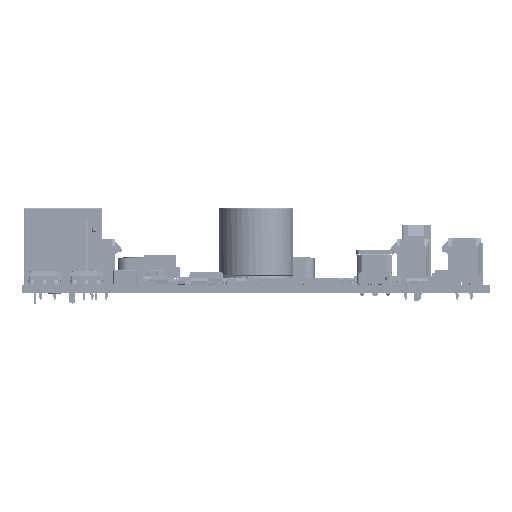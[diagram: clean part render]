
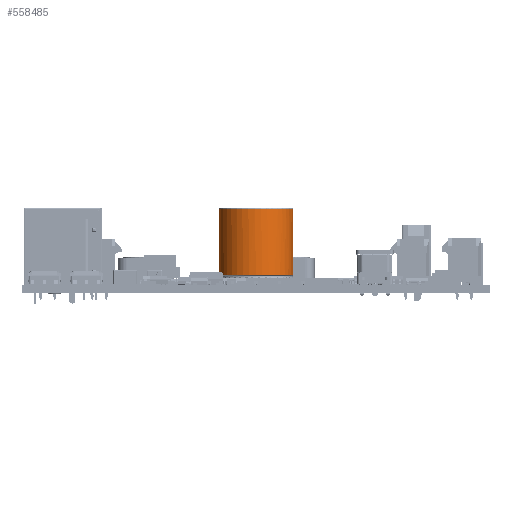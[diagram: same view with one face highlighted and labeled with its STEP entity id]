
A CAD part, left-side view. The second image highlights one B-rep face of the part: STEP entity #558485.
In plain terms, the highlighted cylindrical face has radius 8 mm (diameter 16 mm), a full revolution.
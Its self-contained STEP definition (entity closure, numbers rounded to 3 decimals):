
#30582=CIRCLE('',#598447,8.);
#30583=CIRCLE('',#598448,8.);
#30590=CIRCLE('',#598467,8.);
#30591=CIRCLE('',#598468,8.);
#30592=CIRCLE('',#598469,8.);
#42861=CYLINDRICAL_SURFACE('',#598466,8.);
#49056=FACE_OUTER_BOUND('',#80023,.T.);
#80023=EDGE_LOOP('',(#376846,#376847,#376848,#376849,#376850,#376851,#376852));
#111360=LINE('',#800673,#176104);
#176104=VECTOR('',#645165,8.);
#241570=VERTEX_POINT('',#800623);
#241571=VERTEX_POINT('',#800625);
#241580=VERTEX_POINT('',#800668);
#241581=VERTEX_POINT('',#800669);
#241582=VERTEX_POINT('',#800671);
#294209=EDGE_CURVE('',#241570,#241571,#30582,.T.);
#294210=EDGE_CURVE('',#241571,#241570,#30583,.T.);
#294231=EDGE_CURVE('',#241580,#241581,#30590,.T.);
#294232=EDGE_CURVE('',#241581,#241582,#30591,.T.);
#294233=EDGE_CURVE('',#241582,#241571,#111360,.T.);
#294234=EDGE_CURVE('',#241582,#241580,#30592,.T.);
#376846=ORIENTED_EDGE('',*,*,#294231,.T.);
#376847=ORIENTED_EDGE('',*,*,#294232,.T.);
#376848=ORIENTED_EDGE('',*,*,#294233,.T.);
#376849=ORIENTED_EDGE('',*,*,#294209,.F.);
#376850=ORIENTED_EDGE('',*,*,#294210,.F.);
#376851=ORIENTED_EDGE('',*,*,#294233,.F.);
#376852=ORIENTED_EDGE('',*,*,#294234,.T.);
#558485=ADVANCED_FACE('',(#49056),#42861,.T.);
#598447=AXIS2_PLACEMENT_3D('',#800626,#645107,#645108);
#598448=AXIS2_PLACEMENT_3D('',#800627,#645109,#645110);
#598466=AXIS2_PLACEMENT_3D('',#800667,#645159,#645160);
#598467=AXIS2_PLACEMENT_3D('',#800670,#645161,#645162);
#598468=AXIS2_PLACEMENT_3D('',#800672,#645163,#645164);
#598469=AXIS2_PLACEMENT_3D('',#800674,#645166,#645167);
#645107=DIRECTION('center_axis',(0.,0.,-1.));
#645108=DIRECTION('ref_axis',(0.809,0.588,0.));
#645109=DIRECTION('center_axis',(0.,0.,-1.));
#645110=DIRECTION('ref_axis',(0.809,0.588,0.));
#645159=DIRECTION('center_axis',(0.,0.,1.));
#645160=DIRECTION('ref_axis',(1.,0.,0.));
#645161=DIRECTION('center_axis',(0.,0.,-1.));
#645162=DIRECTION('ref_axis',(1.,0.,0.));
#645163=DIRECTION('center_axis',(0.,0.,-1.));
#645164=DIRECTION('ref_axis',(1.,0.,0.));
#645165=DIRECTION('',(0.,0.,-1.));
#645166=DIRECTION('center_axis',(0.,0.,-1.));
#645167=DIRECTION('ref_axis',(1.,0.,0.));
#800623=CARTESIAN_POINT('',(8.,0.,2.133));
#800625=CARTESIAN_POINT('',(-8.,0.,2.133));
#800626=CARTESIAN_POINT('Origin',(0.,0.,
2.133));
#800627=CARTESIAN_POINT('Origin',(0.,0.,
2.133));
#800667=CARTESIAN_POINT('Origin',(0.,0.,2.05));
#800668=CARTESIAN_POINT('',(-2.4,7.632,16.3));
#800669=CARTESIAN_POINT('',(-2.4,-7.632,16.3));
#800670=CARTESIAN_POINT('Origin',(0.,0.,16.3));
#800671=CARTESIAN_POINT('',(-8.,0.,16.3));
#800672=CARTESIAN_POINT('Origin',(0.,0.,16.3));
#800673=CARTESIAN_POINT('',(-8.,0.,2.05));
#800674=CARTESIAN_POINT('Origin',(0.,0.,16.3));
